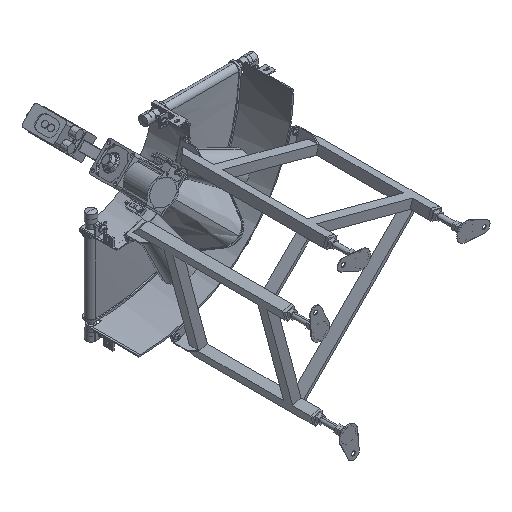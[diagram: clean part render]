
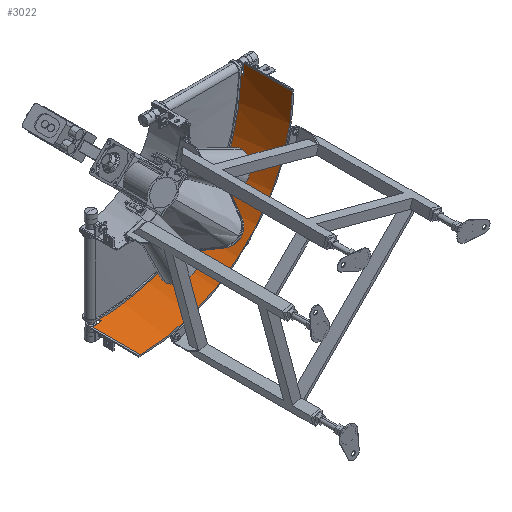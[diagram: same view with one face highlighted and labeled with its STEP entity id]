
A CAD part, isometric view. The second image highlights one B-rep face of the part: STEP entity #3022.
In plain terms, the highlighted cylindrical face has radius 510 mm (diameter 1020 mm), a partial arc.
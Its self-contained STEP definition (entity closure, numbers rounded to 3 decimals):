
#3022=ADVANCED_FACE('',(#15972),#15971,.F.);
#15971=CYLINDRICAL_SURFACE('',#29890,510.);
#15972=FACE_OUTER_BOUND('',#29891,.T.);
#29887=CARTESIAN_POINT('',(0.,-195.,0.));
#29888=DIRECTION('',(0.,-1.,0.));
#29889=DIRECTION('',(0.,0.,-1.));
#29890=AXIS2_PLACEMENT_3D('',#29887,#29888,#29889);
#29891=EDGE_LOOP('',(#43208,#43209,#43210,#43211,#43212,#43213,#43214,#43215));
#43208=ORIENTED_EDGE('',*,*,#49546,.F.);
#43209=ORIENTED_EDGE('',*,*,#49547,.T.);
#43210=ORIENTED_EDGE('',*,*,#49548,.F.);
#43211=ORIENTED_EDGE('',*,*,#49549,.F.);
#43212=ORIENTED_EDGE('',*,*,#49544,.T.);
#43213=ORIENTED_EDGE('',*,*,#49550,.F.);
#43214=ORIENTED_EDGE('',*,*,#49551,.T.);
#43215=ORIENTED_EDGE('',*,*,#49552,.T.);
#49544=EDGE_CURVE('',#70892,#70885,#70893,.T.);
#49546=EDGE_CURVE('',#70905,#70906,#70907,.T.);
#49547=EDGE_CURVE('',#70905,#70913,#70914,.T.);
#49548=EDGE_CURVE('',#70920,#70913,#70921,.T.);
#49549=EDGE_CURVE('',#70892,#70920,#70927,.T.);
#49550=EDGE_CURVE('',#70933,#70885,#70934,.T.);
#49551=EDGE_CURVE('',#70933,#70940,#70941,.T.);
#49552=EDGE_CURVE('',#70940,#70906,#70947,.T.);
#70885=VERTEX_POINT('',#94237);
#70892=VERTEX_POINT('',#94241);
#70893=LINE('',#94242,#94243);
#70905=VERTEX_POINT('',#94248);
#70906=VERTEX_POINT('',#94249);
#70907=LINE('',#94250,#94251);
#70913=VERTEX_POINT('',#94253);
#70914=CIRCLE('',#94257,510.);
#70920=VERTEX_POINT('',#94258);
#70921=LINE('',#94259,#94260);
#70927=CIRCLE('',#94265,510.);
#70933=VERTEX_POINT('',#94266);
#70934=CIRCLE('',#94270,510.);
#70940=VERTEX_POINT('',#94271);
#70941=LINE('',#94272,#94273);
#70947=CIRCLE('',#94278,510.);
#94237=CARTESIAN_POINT('',(510.,-33.,0.));
#94241=CARTESIAN_POINT('',(510.,-195.,0.));
#94242=CARTESIAN_POINT('',(510.,-195.,0.));
#94243=VECTOR('',#94244,162.);
#94244=DIRECTION('',(0.,1.,0.));
#94248=CARTESIAN_POINT('',(32.721,-33.,-508.949));
#94249=CARTESIAN_POINT('',(32.721,5.,-508.949));
#94250=CARTESIAN_POINT('',(32.721,-33.,-508.949));
#94251=VECTOR('',#94252,38.);
#94252=DIRECTION('',(0.,1.,0.));
#94253=CARTESIAN_POINT('',(0.,-33.,-510.));
#94254=CARTESIAN_POINT('',(0.,-33.,0.));
#94255=DIRECTION('',(0.,1.,0.));
#94256=DIRECTION('',(1.,0.,0.));
#94257=AXIS2_PLACEMENT_3D('',#94254,#94255,#94256);
#94258=CARTESIAN_POINT('',(0.,-195.,-510.));
#94259=CARTESIAN_POINT('',(0.,-195.,-510.));
#94260=VECTOR('',#94261,162.);
#94261=DIRECTION('',(0.,1.,0.));
#94262=CARTESIAN_POINT('',(0.,-195.,0.));
#94263=DIRECTION('',(0.,1.,0.));
#94264=DIRECTION('',(0.,0.,-1.));
#94265=AXIS2_PLACEMENT_3D('',#94262,#94263,#94264);
#94266=CARTESIAN_POINT('',(508.949,-33.,-32.721));
#94267=CARTESIAN_POINT('',(0.,-33.,0.));
#94268=DIRECTION('',(0.,-1.,0.));
#94269=DIRECTION('',(0.,0.,-1.));
#94270=AXIS2_PLACEMENT_3D('',#94267,#94268,#94269);
#94271=CARTESIAN_POINT('',(508.949,5.,-32.721));
#94272=CARTESIAN_POINT('',(508.949,-33.,-32.721));
#94273=VECTOR('',#94274,38.);
#94274=DIRECTION('',(0.,1.,0.));
#94275=CARTESIAN_POINT('',(0.,5.,0.));
#94276=DIRECTION('',(0.,1.,0.));
#94277=DIRECTION('',(0.,0.,-1.));
#94278=AXIS2_PLACEMENT_3D('',#94275,#94276,#94277);
